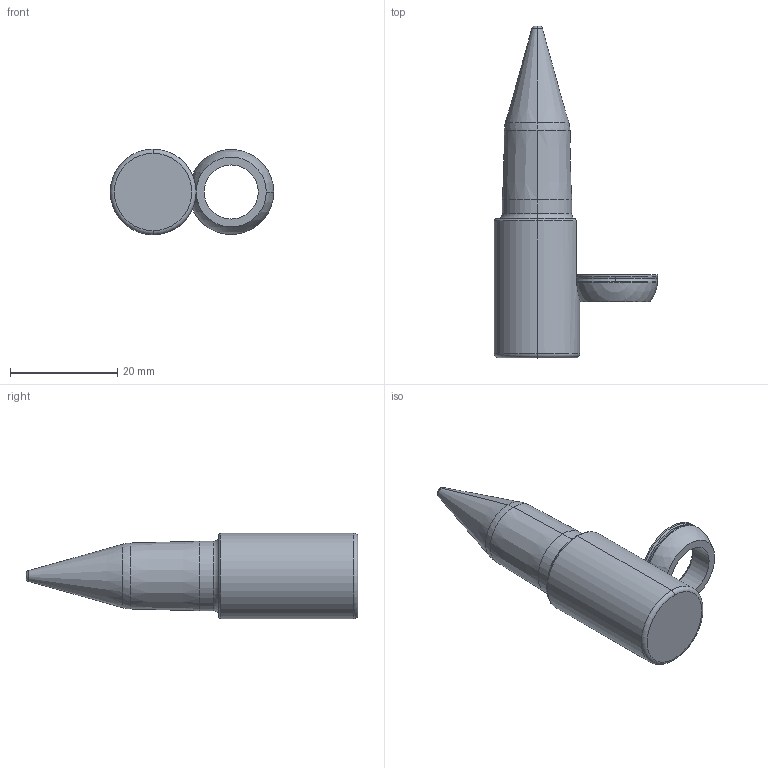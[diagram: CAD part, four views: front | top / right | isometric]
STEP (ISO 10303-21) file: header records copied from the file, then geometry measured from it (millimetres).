
FILE_DESCRIPTION (( 'STEP AP214' ), '1' );
FILE_NAME ('PA-T-13mm-2.5mm-13mm-3-A-F1.STEP', '2019-05-08T18:02:37', ( '' ), ( '' ), 'SwSTEP 2.0', 'SolidWorks 2017', '' );
FILE_SCHEMA (( 'AUTOMOTIVE_DESIGN' ));
Length unit declared in the file: inch
Products named in the file (3): SLPilot-PA-T-M_PA-T-13-2.5-13-3-A-F1; PA-T-13mm-2.5mm-13mm-3-A-F1; SLRadiusWasher_RadiusWasher-M
Assembly tree (2 placements, depth 2):
  PA-T-13mm-2.5mm-13mm-3-A-F1
    SLRadiusWasher_RadiusWasher-M
    SLPilot-PA-T-M_PA-T-13-2.5-13-3-A-F1
Bounding box: 30.55 x 62.04 x 16 mm (x, y, z)
Volume: 8678.1 mm3; surface area: 3220.9 mm2
Topology: 2 solids, 2 shells, 41 faces, 89 edges, 52 vertices
Faces by surface type: torus 15, cylinder 11, cone 6, plane 5, sphere 4
Entity records: 1320 total; most frequent: CARTESIAN_POINT 256, DIRECTION 242, ORIENTED_EDGE 178, AXIS2_PLACEMENT_3D 112, EDGE_CURVE 89, CIRCLE 66, VERTEX_POINT 52, EDGE_LOOP 43
